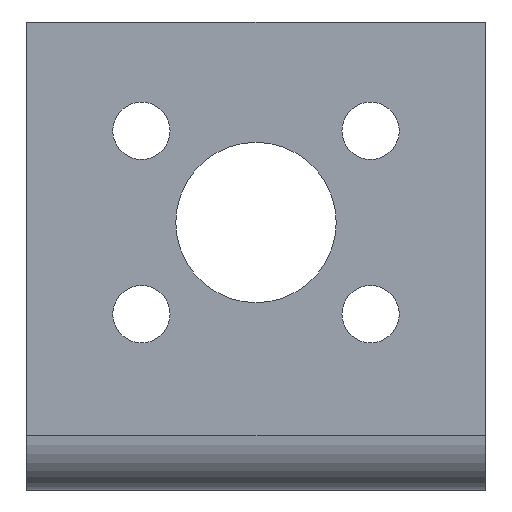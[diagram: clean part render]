
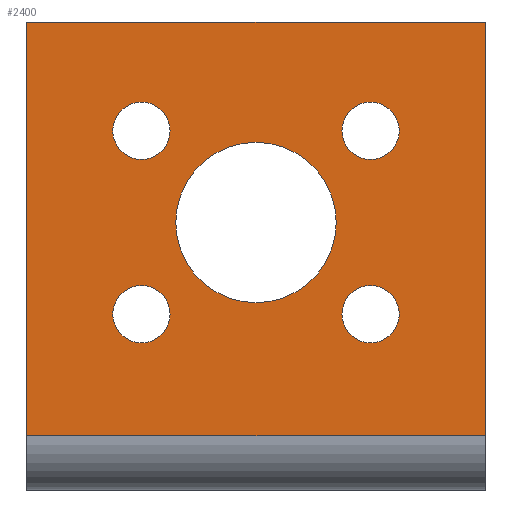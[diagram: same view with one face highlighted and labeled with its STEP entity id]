
A CAD part, front view. The second image highlights one B-rep face of the part: STEP entity #2400.
In plain terms, the highlighted planar face has unit normal (0, -1, 0).
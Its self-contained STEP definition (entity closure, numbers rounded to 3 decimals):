
#9 = CARTESIAN_POINT ( 'NONE',  ( 27.5, 33.156, 27.344 ) ) ;
#34 = ORIENTED_EDGE ( 'NONE', *, *, #1919, .T. ) ;
#36 = DIRECTION ( 'NONE',  ( 1., 0., 0. ) ) ;
#40 = DIRECTION ( 'NONE',  ( 1., 0., 0. ) ) ;
#55 = DIRECTION ( 'NONE',  ( 0., 1., 0. ) ) ;
#67 = EDGE_CURVE ( 'NONE', #1817, #386, #3131, .T. ) ;
#81 = EDGE_LOOP ( 'NONE', ( #1943, #1647 ) ) ;
#84 = EDGE_CURVE ( 'NONE', #2600, #781, #845, .T. ) ;
#89 = VERTEX_POINT ( 'NONE', #367 ) ;
#141 = CARTESIAN_POINT ( 'NONE',  ( 20., 33.156, 19.344 ) ) ;
#158 = EDGE_LOOP ( 'NONE', ( #550, #1057 ) ) ;
#198 = CARTESIAN_POINT ( 'NONE',  ( 12.5, 33.156, 11.344 ) ) ;
#209 = DIRECTION ( 'NONE',  ( 0., -1., 0. ) ) ;
#225 = EDGE_CURVE ( 'NONE', #930, #2232, #2141, .T. ) ;
#250 = DIRECTION ( 'NONE',  ( 1., 0., 0. ) ) ;
#285 = DIRECTION ( 'NONE',  ( 1., 0., 0. ) ) ;
#337 = CARTESIAN_POINT ( 'NONE',  ( 20., 33.156, 19.344 ) ) ;
#363 = CIRCLE ( 'NONE', #496, 2.5 ) ;
#367 = CARTESIAN_POINT ( 'NONE',  ( 40., 33.156, 0.737 ) ) ;
#376 = CARTESIAN_POINT ( 'NONE',  ( 7.5, 33.156, 11.344 ) ) ;
#386 = VERTEX_POINT ( 'NONE', #1780 ) ;
#388 = CARTESIAN_POINT ( 'NONE',  ( 27.5, 33.156, 11.344 ) ) ;
#390 = CARTESIAN_POINT ( 'NONE',  ( 0., 33.156, 36.844 ) ) ;
#459 = DIRECTION ( 'NONE',  ( 0., 1., 0. ) ) ;
#496 = AXIS2_PLACEMENT_3D ( 'NONE', #2832, #3030, #2822 ) ;
#506 = VECTOR ( 'NONE', #2918, 1000. ) ;
#511 = DIRECTION ( 'NONE',  ( 1., 0., 0. ) ) ;
#518 = DIRECTION ( 'NONE',  ( 0., 1., 0. ) ) ;
#525 = CARTESIAN_POINT ( 'NONE',  ( 0., 33.156, 0.737 ) ) ;
#550 = ORIENTED_EDGE ( 'NONE', *, *, #1280, .T. ) ;
#574 = DIRECTION ( 'NONE',  ( 0., 1., 0. ) ) ;
#593 = AXIS2_PLACEMENT_3D ( 'NONE', #1938, #209, #2171 ) ;
#638 = CARTESIAN_POINT ( 'NONE',  ( 27., 33.156, 19.344 ) ) ;
#716 = CIRCLE ( 'NONE', #1325, 2.5 ) ;
#718 = ORIENTED_EDGE ( 'NONE', *, *, #84, .T. ) ;
#745 = AXIS2_PLACEMENT_3D ( 'NONE', #2460, #2676, #250 ) ;
#747 = CIRCLE ( 'NONE', #946, 2.5 ) ;
#781 = VERTEX_POINT ( 'NONE', #376 ) ;
#823 = VERTEX_POINT ( 'NONE', #1390 ) ;
#845 = CIRCLE ( 'NONE', #1345, 2.5 ) ;
#930 = VERTEX_POINT ( 'NONE', #388 ) ;
#946 = AXIS2_PLACEMENT_3D ( 'NONE', #998, #2706, #511 ) ;
#949 = FACE_OUTER_BOUND ( 'NONE', #3060, .T. ) ;
#961 = LINE ( 'NONE', #525, #1565 ) ;
#971 = DIRECTION ( 'NONE',  ( 1., 0., 0. ) ) ;
#998 = CARTESIAN_POINT ( 'NONE',  ( 30., 33.156, 27.344 ) ) ;
#1031 = FACE_BOUND ( 'NONE', #2368, .T. ) ;
#1039 = ORIENTED_EDGE ( 'NONE', *, *, #1205, .T. ) ;
#1040 = CARTESIAN_POINT ( 'NONE',  ( 30., 33.156, 27.344 ) ) ;
#1049 = DIRECTION ( 'NONE',  ( 0., 0., 1. ) ) ;
#1057 = ORIENTED_EDGE ( 'NONE', *, *, #3114, .T. ) ;
#1061 = EDGE_CURVE ( 'NONE', #2609, #1763, #716, .T. ) ;
#1123 = AXIS2_PLACEMENT_3D ( 'NONE', #2725, #518, #285 ) ;
#1142 = ORIENTED_EDGE ( 'NONE', *, *, #67, .F. ) ;
#1164 = CIRCLE ( 'NONE', #1712, 7. ) ;
#1169 = CIRCLE ( 'NONE', #2795, 7. ) ;
#1205 = EDGE_CURVE ( 'NONE', #2476, #89, #961, .T. ) ;
#1207 = CARTESIAN_POINT ( 'NONE',  ( 40., 33.156, 36.844 ) ) ;
#1256 = ORIENTED_EDGE ( 'NONE', *, *, #2048, .T. ) ;
#1280 = EDGE_CURVE ( 'NONE', #2226, #1771, #1665, .T. ) ;
#1290 = CIRCLE ( 'NONE', #2189, 2.5 ) ;
#1294 = DIRECTION ( 'NONE',  ( 1., 0., 0. ) ) ;
#1325 = AXIS2_PLACEMENT_3D ( 'NONE', #3164, #1699, #40 ) ;
#1345 = AXIS2_PLACEMENT_3D ( 'NONE', #3079, #2117, #2348 ) ;
#1367 = CIRCLE ( 'NONE', #1123, 2.5 ) ;
#1390 = CARTESIAN_POINT ( 'NONE',  ( 13., 33.156, 19.344 ) ) ;
#1403 = DIRECTION ( 'NONE',  ( 1., 0., 0. ) ) ;
#1406 = CARTESIAN_POINT ( 'NONE',  ( 32.5, 33.156, 27.344 ) ) ;
#1438 = LINE ( 'NONE', #1207, #506 ) ;
#1458 = ORIENTED_EDGE ( 'NONE', *, *, #2072, .T. ) ;
#1480 = EDGE_CURVE ( 'NONE', #823, #2987, #1169, .T. ) ;
#1487 = CARTESIAN_POINT ( 'NONE',  ( 12.5, 33.156, 27.344 ) ) ;
#1491 = EDGE_CURVE ( 'NONE', #2476, #1817, #2430, .T. ) ;
#1565 = VECTOR ( 'NONE', #1294, 1000. ) ;
#1647 = ORIENTED_EDGE ( 'NONE', *, *, #1061, .T. ) ;
#1663 = PLANE ( 'NONE',  #593 ) ;
#1665 = CIRCLE ( 'NONE', #1803, 2.5 ) ;
#1680 = ORIENTED_EDGE ( 'NONE', *, *, #225, .T. ) ;
#1699 = DIRECTION ( 'NONE',  ( 0., 1., 0. ) ) ;
#1712 = AXIS2_PLACEMENT_3D ( 'NONE', #141, #2338, #2816 ) ;
#1763 = VERTEX_POINT ( 'NONE', #1487 ) ;
#1771 = VERTEX_POINT ( 'NONE', #9 ) ;
#1780 = CARTESIAN_POINT ( 'NONE',  ( 40., 33.156, 36.844 ) ) ;
#1803 = AXIS2_PLACEMENT_3D ( 'NONE', #1040, #55, #36 ) ;
#1817 = VERTEX_POINT ( 'NONE', #3170 ) ;
#1821 = EDGE_LOOP ( 'NONE', ( #718, #34 ) ) ;
#1870 = EDGE_LOOP ( 'NONE', ( #1458, #2568 ) ) ;
#1919 = EDGE_CURVE ( 'NONE', #781, #2600, #1367, .T. ) ;
#1938 = CARTESIAN_POINT ( 'NONE',  ( 0., 33.156, 36.844 ) ) ;
#1943 = ORIENTED_EDGE ( 'NONE', *, *, #2564, .T. ) ;
#2048 = EDGE_CURVE ( 'NONE', #2232, #930, #363, .T. ) ;
#2062 = VECTOR ( 'NONE', #1403, 1000. ) ;
#2072 = EDGE_CURVE ( 'NONE', #2987, #823, #1164, .T. ) ;
#2117 = DIRECTION ( 'NONE',  ( 0., 1., 0. ) ) ;
#2134 = CARTESIAN_POINT ( 'NONE',  ( 10., 33.156, 27.344 ) ) ;
#2141 = CIRCLE ( 'NONE', #745, 2.5 ) ;
#2171 = DIRECTION ( 'NONE',  ( -1., 0., 0. ) ) ;
#2189 = AXIS2_PLACEMENT_3D ( 'NONE', #2134, #459, #971 ) ;
#2226 = VERTEX_POINT ( 'NONE', #1406 ) ;
#2230 = CARTESIAN_POINT ( 'NONE',  ( 7.5, 33.156, 27.344 ) ) ;
#2232 = VERTEX_POINT ( 'NONE', #3119 ) ;
#2250 = FACE_BOUND ( 'NONE', #1870, .T. ) ;
#2311 = CARTESIAN_POINT ( 'NONE',  ( 0., 33.156, 36.844 ) ) ;
#2338 = DIRECTION ( 'NONE',  ( 0., 1., 0. ) ) ;
#2348 = DIRECTION ( 'NONE',  ( 1., 0., 0. ) ) ;
#2368 = EDGE_LOOP ( 'NONE', ( #1256, #1680 ) ) ;
#2389 = FACE_BOUND ( 'NONE', #1821, .T. ) ;
#2400 = ADVANCED_FACE ( 'NONE', ( #2389, #1031, #3156, #2250, #2427, #949 ), #1663, .T. ) ;
#2427 = FACE_BOUND ( 'NONE', #81, .T. ) ;
#2430 = LINE ( 'NONE', #2311, #3052 ) ;
#2452 = ORIENTED_EDGE ( 'NONE', *, *, #2968, .F. ) ;
#2460 = CARTESIAN_POINT ( 'NONE',  ( 30., 33.156, 11.344 ) ) ;
#2476 = VERTEX_POINT ( 'NONE', #2947 ) ;
#2564 = EDGE_CURVE ( 'NONE', #1763, #2609, #1290, .T. ) ;
#2568 = ORIENTED_EDGE ( 'NONE', *, *, #1480, .T. ) ;
#2600 = VERTEX_POINT ( 'NONE', #198 ) ;
#2609 = VERTEX_POINT ( 'NONE', #2230 ) ;
#2676 = DIRECTION ( 'NONE',  ( 0., 1., 0. ) ) ;
#2706 = DIRECTION ( 'NONE',  ( 0., 1., 0. ) ) ;
#2715 = ORIENTED_EDGE ( 'NONE', *, *, #1491, .F. ) ;
#2725 = CARTESIAN_POINT ( 'NONE',  ( 10., 33.156, 11.344 ) ) ;
#2764 = DIRECTION ( 'NONE',  ( 1., 0., 0. ) ) ;
#2795 = AXIS2_PLACEMENT_3D ( 'NONE', #337, #574, #2764 ) ;
#2816 = DIRECTION ( 'NONE',  ( 1., 0., 0. ) ) ;
#2822 = DIRECTION ( 'NONE',  ( 1., 0., 0. ) ) ;
#2832 = CARTESIAN_POINT ( 'NONE',  ( 30., 33.156, 11.344 ) ) ;
#2918 = DIRECTION ( 'NONE',  ( 0., 0., -1. ) ) ;
#2947 = CARTESIAN_POINT ( 'NONE',  ( 0., 33.156, 0.737 ) ) ;
#2968 = EDGE_CURVE ( 'NONE', #386, #89, #1438, .T. ) ;
#2987 = VERTEX_POINT ( 'NONE', #638 ) ;
#3030 = DIRECTION ( 'NONE',  ( 0., 1., 0. ) ) ;
#3052 = VECTOR ( 'NONE', #1049, 1000. ) ;
#3060 = EDGE_LOOP ( 'NONE', ( #2715, #1039, #2452, #1142 ) ) ;
#3079 = CARTESIAN_POINT ( 'NONE',  ( 10., 33.156, 11.344 ) ) ;
#3114 = EDGE_CURVE ( 'NONE', #1771, #2226, #747, .T. ) ;
#3119 = CARTESIAN_POINT ( 'NONE',  ( 32.5, 33.156, 11.344 ) ) ;
#3131 = LINE ( 'NONE', #390, #2062 ) ;
#3156 = FACE_BOUND ( 'NONE', #158, .T. ) ;
#3164 = CARTESIAN_POINT ( 'NONE',  ( 10., 33.156, 27.344 ) ) ;
#3170 = CARTESIAN_POINT ( 'NONE',  ( 0., 33.156, 36.844 ) ) ;
